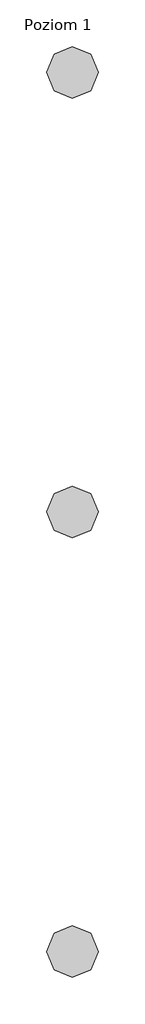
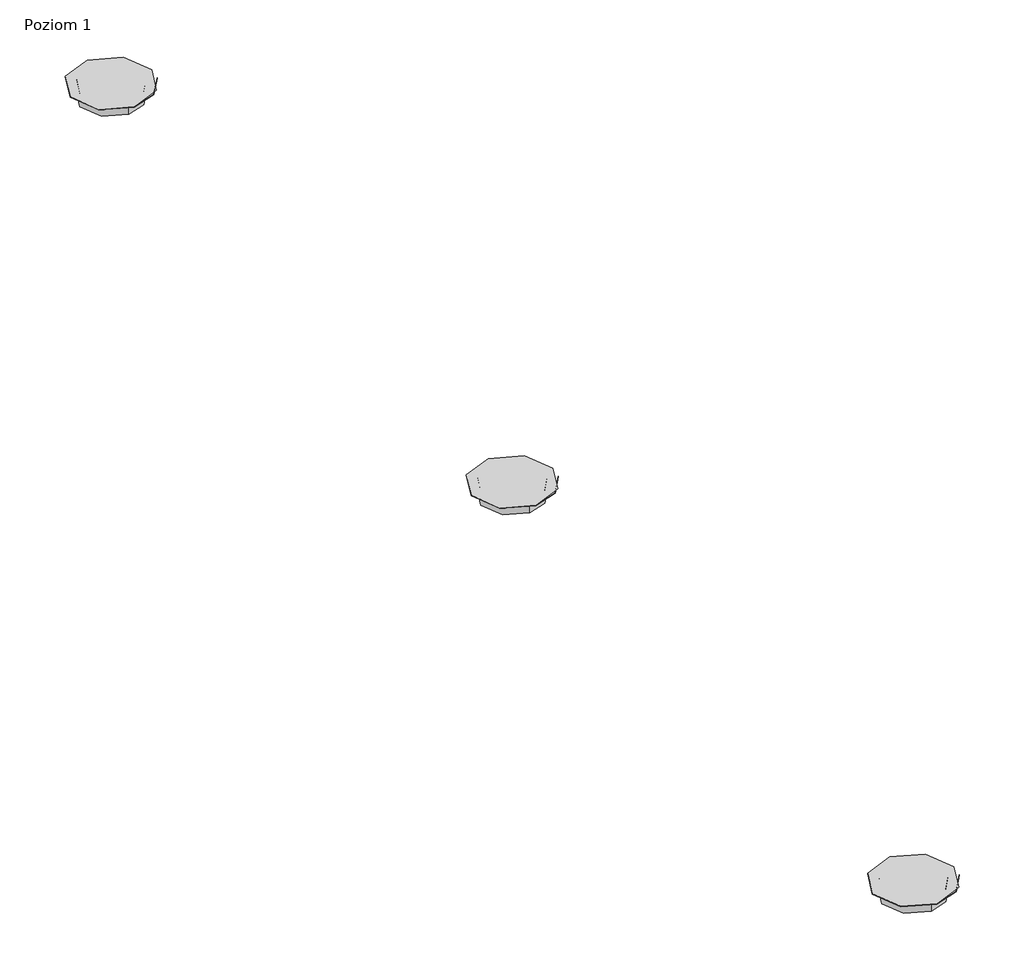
# One storey, incomplete: 3 duct fittings.
"""IFC4 building model written with IfcOpenShell, lengths in millimetres."""

from ifc_helpers import new_model, si_unit, origin, place, context, project, spatial, transform, mapped, element, save
from components import duct_fitting_180_5dd8c60e

model = new_model("IFC4")

# Units and contexts
model_context = context("Model", 3, world=origin())
ifc_project = project(units=[si_unit("LENGTHUNIT", "METRE", prefix="MILLI")], contexts=[model_context])

# Site, building, storey
site = spatial("IfcSite", under=ifc_project)
building = spatial("IfcBuilding", under=site)
storey = spatial("IfcBuildingStorey", under=building, Name="Poziom 1", Elevation=0.0)

# Duct fittings
placement = place(None, origin())
duct_fitting_180_shape = duct_fitting_180_5dd8c60e(model_context)
element("IfcDuctFitting", 1, ObjectType="VE-Zagnieżdżone-Akcesorium-ParaForma-Harmann-DAF-Króciec_Przyłączeniowy : 180", at=placement, inside=storey, context=model_context, shape_type="MappedRepresentation", body=[
    mapped(duct_fitting_180_shape, transform((4582.5, 1000.0, 0.0), x_axis=(1.0, 0.0, 0.0), y_axis=(0.0, 1.0, 0.0), z_axis=(0.0, 0.0, 1.0))),
])
element("IfcDuctFitting", 2, ObjectType="VE-Zagnieżdżone-Akcesorium-ParaForma-Harmann-DAF-Króciec_Przyłączeniowy : 180", at=placement, inside=storey, context=model_context, shape_type="MappedRepresentation", body=[
    mapped(duct_fitting_180_shape, transform((4582.5, 3000.0, 0.0), x_axis=(1.0, 0.0, 0.0), y_axis=(0.0, 1.0, 0.0), z_axis=(0.0, 0.0, 1.0))),
])
element("IfcDuctFitting", 3, ObjectType="VE-Zagnieżdżone-Akcesorium-ParaForma-Harmann-DAF-Króciec_Przyłączeniowy : 180", at=placement, inside=storey, context=model_context, shape_type="MappedRepresentation", body=[
    mapped(duct_fitting_180_shape, transform((4582.5, 5000.0, 0.0), x_axis=(1.0, 0.0, 0.0), y_axis=(0.0, 1.0, 0.0), z_axis=(0.0, 0.0, 1.0))),
])

save(model, "model.ifc")
